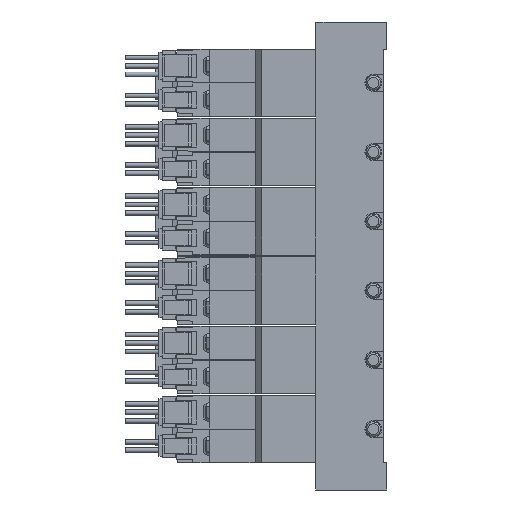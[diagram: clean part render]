
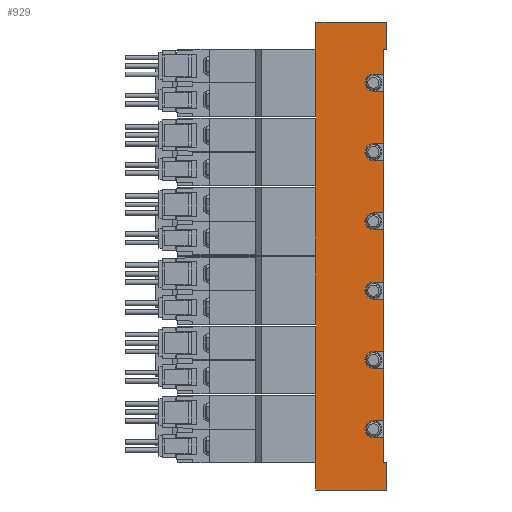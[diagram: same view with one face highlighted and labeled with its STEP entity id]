
A CAD part, left-side view. The second image highlights one B-rep face of the part: STEP entity #929.
In plain terms, the highlighted planar face has unit normal (-1, 0, 0) as drawn and (1, 0, 0) by its records, which use the part's own axes.
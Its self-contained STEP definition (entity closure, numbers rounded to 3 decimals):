
#929=ADVANCED_FACE('',(#1940),#1941,.F.);
#1940=FACE_OUTER_BOUND('',#3028,.T.);
#1941=PLANE('',#3029);
#3028=EDGE_LOOP('',(#6504,#6505,#6506,#6507,#6508,#6509,#6510,#6511,#6512,#6513,#6514,#6515,#6516,#6517,#6518,#6519,#6520,#6521,#6522,#6523,#6524,#6525,#6526,#6527,#6528,#6529,#6530,#6531,#6532,#6533,#6534,#6535));
#3029=AXIS2_PLACEMENT_3D('',#6536,#6537,#6538);
#6504=ORIENTED_EDGE('',*,*,#7910,.T.);
#6505=ORIENTED_EDGE('',*,*,#7819,.T.);
#6506=ORIENTED_EDGE('',*,*,#7735,.F.);
#6507=ORIENTED_EDGE('',*,*,#7911,.F.);
#6508=ORIENTED_EDGE('',*,*,#7879,.T.);
#6509=ORIENTED_EDGE('',*,*,#7890,.T.);
#6510=ORIENTED_EDGE('',*,*,#7845,.T.);
#6511=ORIENTED_EDGE('',*,*,#7912,.F.);
#6512=ORIENTED_EDGE('',*,*,#7885,.F.);
#6513=ORIENTED_EDGE('',*,*,#7913,.F.);
#6514=ORIENTED_EDGE('',*,*,#7842,.T.);
#6515=ORIENTED_EDGE('',*,*,#7763,.F.);
#6516=ORIENTED_EDGE('',*,*,#7894,.F.);
#6517=ORIENTED_EDGE('',*,*,#7902,.F.);
#6518=ORIENTED_EDGE('',*,*,#7839,.T.);
#6519=ORIENTED_EDGE('',*,*,#7914,.F.);
#6520=ORIENTED_EDGE('',*,*,#7863,.F.);
#6521=ORIENTED_EDGE('',*,*,#7774,.F.);
#6522=ORIENTED_EDGE('',*,*,#7836,.T.);
#6523=ORIENTED_EDGE('',*,*,#7849,.F.);
#6524=ORIENTED_EDGE('',*,*,#7915,.F.);
#6525=ORIENTED_EDGE('',*,*,#7875,.F.);
#6526=ORIENTED_EDGE('',*,*,#7832,.T.);
#6527=ORIENTED_EDGE('',*,*,#7888,.F.);
#6528=ORIENTED_EDGE('',*,*,#7916,.F.);
#6529=ORIENTED_EDGE('',*,*,#7917,.F.);
#6530=ORIENTED_EDGE('',*,*,#7829,.T.);
#6531=ORIENTED_EDGE('',*,*,#7887,.F.);
#6532=ORIENTED_EDGE('',*,*,#7859,.F.);
#6533=ORIENTED_EDGE('',*,*,#7918,.F.);
#6534=ORIENTED_EDGE('',*,*,#7825,.T.);
#6535=ORIENTED_EDGE('',*,*,#7919,.T.);
#6536=CARTESIAN_POINT('',(17.5,1.0,69.25));
#6537=DIRECTION('',(-1.0,0.0,0.0));
#6538=DIRECTION('',(0.0,0.0,1.0));
#7735=EDGE_CURVE('',#9487,#9482,#9489,.T.);
#7763=EDGE_CURVE('',#9542,#9543,#9544,.T.);
#7774=EDGE_CURVE('',#9562,#9563,#9564,.T.);
#7819=EDGE_CURVE('',#9647,#9482,#9648,.T.);
#7825=EDGE_CURVE('',#9658,#9656,#9659,.T.);
#7829=EDGE_CURVE('',#9666,#9664,#9667,.T.);
#7832=EDGE_CURVE('',#9671,#9669,#9672,.T.);
#7836=EDGE_CURVE('',#9562,#9677,#9679,.T.);
#7839=EDGE_CURVE('',#9684,#9682,#9685,.T.);
#7842=EDGE_CURVE('',#9689,#9543,#9690,.T.);
#7845=EDGE_CURVE('',#9694,#9692,#9695,.T.);
#7849=EDGE_CURVE('',#9699,#9677,#9700,.T.);
#7859=EDGE_CURVE('',#9715,#9717,#9718,.T.);
#7863=EDGE_CURVE('',#9563,#9723,#9724,.T.);
#7875=EDGE_CURVE('',#9671,#9741,#9742,.T.);
#7879=EDGE_CURVE('',#9748,#9749,#9750,.T.);
#7885=EDGE_CURVE('',#9758,#9760,#9761,.T.);
#7887=EDGE_CURVE('',#9717,#9664,#9763,.T.);
#7888=EDGE_CURVE('',#9764,#9669,#9765,.T.);
#7890=EDGE_CURVE('',#9749,#9694,#9767,.T.);
#7894=EDGE_CURVE('',#9770,#9542,#9772,.T.);
#7902=EDGE_CURVE('',#9684,#9770,#9783,.T.);
#7910=EDGE_CURVE('',#9798,#9647,#9799,.T.);
#7911=EDGE_CURVE('',#9748,#9487,#9800,.T.);
#7912=EDGE_CURVE('',#9760,#9692,#9801,.T.);
#7913=EDGE_CURVE('',#9689,#9758,#9802,.T.);
#7914=EDGE_CURVE('',#9723,#9682,#9803,.T.);
#7915=EDGE_CURVE('',#9741,#9699,#9804,.T.);
#7916=EDGE_CURVE('',#9805,#9764,#9806,.T.);
#7917=EDGE_CURVE('',#9666,#9805,#9807,.T.);
#7918=EDGE_CURVE('',#9658,#9715,#9808,.T.);
#7919=EDGE_CURVE('',#9656,#9798,#9809,.T.);
#9482=VERTEX_POINT('',#12381);
#9487=VERTEX_POINT('',#12388);
#9489=LINE('',#12391,#12392);
#9542=VERTEX_POINT('',#12667);
#9543=VERTEX_POINT('',#12668);
#9544=LINE('',#12669,#12670);
#9562=VERTEX_POINT('',#12694);
#9563=VERTEX_POINT('',#12695);
#9564=LINE('',#12696,#12697);
#9647=VERTEX_POINT('',#12798);
#9648=LINE('',#12799,#12800);
#9656=VERTEX_POINT('',#12811);
#9658=VERTEX_POINT('',#12814);
#9659=LINE('',#12815,#12816);
#9664=VERTEX_POINT('',#12823);
#9666=VERTEX_POINT('',#12826);
#9667=LINE('',#12827,#12828);
#9669=VERTEX_POINT('',#12831);
#9671=VERTEX_POINT('',#12834);
#9672=LINE('',#12835,#12836);
#9677=VERTEX_POINT('',#12843);
#9679=LINE('',#12846,#12847);
#9682=VERTEX_POINT('',#12851);
#9684=VERTEX_POINT('',#12854);
#9685=LINE('',#12855,#12856);
#9689=VERTEX_POINT('',#12862);
#9690=LINE('',#12863,#12864);
#9692=VERTEX_POINT('',#12867);
#9694=VERTEX_POINT('',#12870);
#9695=LINE('',#12871,#12872);
#9699=VERTEX_POINT('',#12879);
#9700=LINE('',#12880,#12881);
#9715=VERTEX_POINT('',#12899);
#9717=VERTEX_POINT('',#12902);
#9718=CIRCLE('',#12903,2.5);
#9723=VERTEX_POINT('',#12909);
#9724=CIRCLE('',#12910,2.5);
#9741=VERTEX_POINT('',#12929);
#9742=LINE('',#12930,#12931);
#9748=VERTEX_POINT('',#12940);
#9749=VERTEX_POINT('',#12941);
#9750=LINE('',#12942,#12943);
#9758=VERTEX_POINT('',#12954);
#9760=VERTEX_POINT('',#12957);
#9761=CIRCLE('',#12958,2.5);
#9763=LINE('',#12961,#12962);
#9764=VERTEX_POINT('',#12963);
#9765=LINE('',#12964,#12965);
#9767=LINE('',#12968,#12969);
#9770=VERTEX_POINT('',#12973);
#9772=CIRCLE('',#12976,2.5);
#9783=LINE('',#12990,#12991);
#9798=VERTEX_POINT('',#13006);
#9799=LINE('',#13007,#13008);
#9800=LINE('',#13009,#13010);
#9801=LINE('',#13011,#13012);
#9802=LINE('',#13013,#13014);
#9803=LINE('',#13015,#13016);
#9804=CIRCLE('',#13017,2.5);
#9805=VERTEX_POINT('',#13018);
#9806=CIRCLE('',#13019,2.5);
#9807=LINE('',#13020,#13021);
#9808=LINE('',#13022,#13023);
#9809=LINE('',#13024,#13025);
#12381=CARTESIAN_POINT('',(17.5,21.0,-69.25));
#12388=CARTESIAN_POINT('',(17.5,21.0,69.25));
#12391=CARTESIAN_POINT('',(17.5,21.0,69.25));
#12392=VECTOR('',#14196,1.0);
#12667=CARTESIAN_POINT('',(17.5,4.0,33.25));
#12668=CARTESIAN_POINT('',(17.5,1.0,33.25));
#12669=CARTESIAN_POINT('',(17.5,1.0,33.25));
#12670=VECTOR('',#14259,1.0);
#12694=CARTESIAN_POINT('',(17.5,1.0,7.75));
#12695=CARTESIAN_POINT('',(17.5,4.0,7.75));
#12696=CARTESIAN_POINT('',(17.5,1.0,7.75));
#12697=VECTOR('',#14275,1.0);
#12798=CARTESIAN_POINT('',(17.5,0.0,-69.25));
#12799=CARTESIAN_POINT('',(17.5,1.0,-69.25));
#12800=VECTOR('',#14369,1.0);
#12811=CARTESIAN_POINT('',(17.5,1.0,-61.25));
#12814=CARTESIAN_POINT('',(17.5,1.0,-53.75));
#12815=CARTESIAN_POINT('',(17.5,1.0,69.25));
#12816=VECTOR('',#14377,1.0);
#12823=CARTESIAN_POINT('',(17.5,1.0,-48.75));
#12826=CARTESIAN_POINT('',(17.5,1.0,-33.25));
#12827=CARTESIAN_POINT('',(17.5,1.0,69.25));
#12828=VECTOR('',#14381,1.0);
#12831=CARTESIAN_POINT('',(17.5,1.0,-28.25));
#12834=CARTESIAN_POINT('',(17.5,1.0,-12.75));
#12835=CARTESIAN_POINT('',(17.5,1.0,69.25));
#12836=VECTOR('',#14384,1.0);
#12843=CARTESIAN_POINT('',(17.5,1.0,-7.75));
#12846=CARTESIAN_POINT('',(17.5,1.0,69.25));
#12847=VECTOR('',#14388,1.0);
#12851=CARTESIAN_POINT('',(17.5,1.0,12.75));
#12854=CARTESIAN_POINT('',(17.5,1.0,28.25));
#12855=CARTESIAN_POINT('',(17.5,1.0,69.25));
#12856=VECTOR('',#14391,1.0);
#12862=CARTESIAN_POINT('',(17.5,1.0,48.75));
#12863=CARTESIAN_POINT('',(17.5,1.0,69.25));
#12864=VECTOR('',#14394,1.0);
#12867=CARTESIAN_POINT('',(17.5,1.0,53.75));
#12870=CARTESIAN_POINT('',(17.5,1.0,61.25));
#12871=CARTESIAN_POINT('',(17.5,1.0,69.25));
#12872=VECTOR('',#14397,1.0);
#12879=CARTESIAN_POINT('',(17.5,4.0,-7.75));
#12880=CARTESIAN_POINT('',(17.5,1.0,-7.75));
#12881=VECTOR('',#14401,1.0);
#12899=CARTESIAN_POINT('',(17.5,4.0,-53.75));
#12902=CARTESIAN_POINT('',(17.5,4.0,-48.75));
#12903=AXIS2_PLACEMENT_3D('',#14421,#14422,#14423);
#12909=CARTESIAN_POINT('',(17.5,4.0,12.75));
#12910=AXIS2_PLACEMENT_3D('',#14431,#14432,#14433);
#12929=CARTESIAN_POINT('',(17.5,4.0,-12.75));
#12930=CARTESIAN_POINT('',(17.5,1.0,-12.75));
#12931=VECTOR('',#14457,1.0);
#12940=CARTESIAN_POINT('',(17.5,0.0,69.25));
#12941=CARTESIAN_POINT('',(17.5,0.0,61.25));
#12942=CARTESIAN_POINT('',(17.5,0.0,69.25));
#12943=VECTOR('',#14461,1.0);
#12954=CARTESIAN_POINT('',(17.5,4.0,48.75));
#12957=CARTESIAN_POINT('',(17.5,4.0,53.75));
#12958=AXIS2_PLACEMENT_3D('',#14469,#14470,#14471);
#12961=CARTESIAN_POINT('',(17.5,1.0,-48.75));
#12962=VECTOR('',#14473,1.0);
#12963=CARTESIAN_POINT('',(17.5,4.0,-28.25));
#12964=CARTESIAN_POINT('',(17.5,1.0,-28.25));
#12965=VECTOR('',#14474,1.0);
#12968=CARTESIAN_POINT('',(17.5,0.0,61.25));
#12969=VECTOR('',#14476,1.0);
#12973=CARTESIAN_POINT('',(17.5,4.0,28.25));
#12976=AXIS2_PLACEMENT_3D('',#14482,#14483,#14484);
#12990=CARTESIAN_POINT('',(17.5,1.0,28.25));
#12991=VECTOR('',#14497,1.0);
#13006=CARTESIAN_POINT('',(17.5,0.0,-61.25));
#13007=CARTESIAN_POINT('',(17.5,0.0,-61.25));
#13008=VECTOR('',#14519,1.0);
#13009=CARTESIAN_POINT('',(17.5,1.0,69.25));
#13010=VECTOR('',#14520,1.0);
#13011=CARTESIAN_POINT('',(17.5,1.0,53.75));
#13012=VECTOR('',#14521,1.0);
#13013=CARTESIAN_POINT('',(17.5,1.0,48.75));
#13014=VECTOR('',#14522,1.0);
#13015=CARTESIAN_POINT('',(17.5,1.0,12.75));
#13016=VECTOR('',#14523,1.0);
#13017=AXIS2_PLACEMENT_3D('',#14524,#14525,#14526);
#13018=CARTESIAN_POINT('',(17.5,4.0,-33.25));
#13019=AXIS2_PLACEMENT_3D('',#14527,#14528,#14529);
#13020=CARTESIAN_POINT('',(17.5,1.0,-33.25));
#13021=VECTOR('',#14530,1.0);
#13022=CARTESIAN_POINT('',(17.5,1.0,-53.75));
#13023=VECTOR('',#14531,1.0);
#13024=CARTESIAN_POINT('',(17.5,4.0,-61.25));
#13025=VECTOR('',#14532,1.0);
#14196=DIRECTION('',(0.0,0.0,-1.0));
#14259=DIRECTION('',(0.0,-1.0,0.0));
#14275=DIRECTION('',(0.0,1.0,0.0));
#14369=DIRECTION('',(0.0,1.0,0.0));
#14377=DIRECTION('',(0.0,0.0,-1.0));
#14381=DIRECTION('',(0.0,0.0,-1.0));
#14384=DIRECTION('',(0.0,0.0,-1.0));
#14388=DIRECTION('',(0.0,0.0,-1.0));
#14391=DIRECTION('',(0.0,0.0,-1.0));
#14394=DIRECTION('',(0.0,0.0,-1.0));
#14397=DIRECTION('',(0.0,0.0,-1.0));
#14401=DIRECTION('',(0.0,-1.0,0.0));
#14421=CARTESIAN_POINT('',(17.5,4.0,-51.25));
#14422=DIRECTION('',(1.0,0.0,-0.0));
#14423=DIRECTION('',(0.0,0.0,1.0));
#14431=CARTESIAN_POINT('',(17.5,4.0,10.25));
#14432=DIRECTION('',(1.0,0.0,-0.0));
#14433=DIRECTION('',(0.0,0.0,1.0));
#14457=DIRECTION('',(0.0,1.0,0.0));
#14461=DIRECTION('',(0.0,0.0,-1.0));
#14469=CARTESIAN_POINT('',(17.5,4.0,51.25));
#14470=DIRECTION('',(1.0,0.0,-0.0));
#14471=DIRECTION('',(0.0,0.0,1.0));
#14473=DIRECTION('',(0.0,-1.0,0.0));
#14474=DIRECTION('',(0.0,-1.0,0.0));
#14476=DIRECTION('',(0.0,1.0,0.0));
#14482=CARTESIAN_POINT('',(17.5,4.0,30.75));
#14483=DIRECTION('',(1.0,0.0,-0.0));
#14484=DIRECTION('',(0.0,0.0,1.0));
#14497=DIRECTION('',(0.0,1.0,0.0));
#14519=DIRECTION('',(0.0,0.0,-1.0));
#14520=DIRECTION('',(0.0,1.0,0.0));
#14521=DIRECTION('',(0.0,-1.0,0.0));
#14522=DIRECTION('',(0.0,1.0,0.0));
#14523=DIRECTION('',(0.0,-1.0,0.0));
#14524=CARTESIAN_POINT('',(17.5,4.0,-10.25));
#14525=DIRECTION('',(1.0,0.0,-0.0));
#14526=DIRECTION('',(0.0,0.0,1.0));
#14527=CARTESIAN_POINT('',(17.5,4.0,-30.75));
#14528=DIRECTION('',(1.0,0.0,-0.0));
#14529=DIRECTION('',(0.0,0.0,1.0));
#14530=DIRECTION('',(0.0,1.0,0.0));
#14531=DIRECTION('',(0.0,1.0,0.0));
#14532=DIRECTION('',(0.0,-1.0,0.0));
